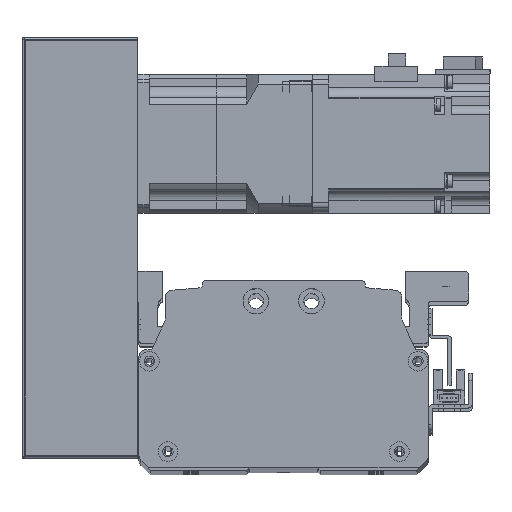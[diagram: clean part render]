
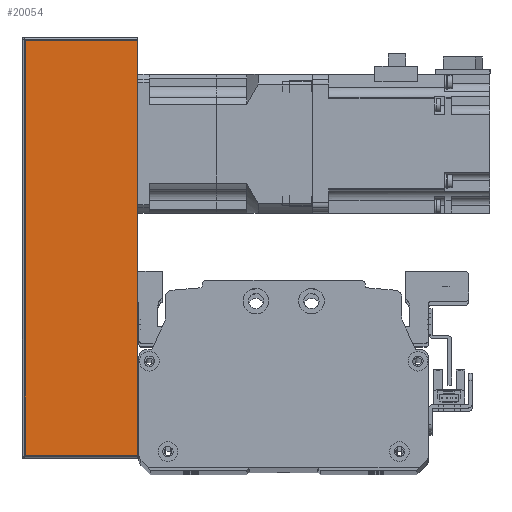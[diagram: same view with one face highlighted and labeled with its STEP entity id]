
A CAD part, top view. The second image highlights one B-rep face of the part: STEP entity #20054.
In plain terms, the highlighted planar face has unit normal (0, 0, 1) as drawn and (0, -1, 0) by its records, which use the part's own axes.
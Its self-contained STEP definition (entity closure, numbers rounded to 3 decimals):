
#604=PLANE('',#22050);
#1823=LINE('',#33120,#3447);
#1832=LINE('',#33159,#3456);
#1835=LINE('',#33169,#3459);
#1836=LINE('',#33171,#3460);
#3447=VECTOR('',#26790,10.);
#3456=VECTOR('',#26839,10.);
#3459=VECTOR('',#26856,10.);
#3460=VECTOR('',#26859,10.);
#5866=FACE_OUTER_BOUND('',#7350,.T.);
#7350=EDGE_LOOP('',(#17263,#17264,#17265,#17266));
#10261=VERTEX_POINT('',#33117);
#10262=VERTEX_POINT('',#33119);
#10271=VERTEX_POINT('',#33156);
#10272=VERTEX_POINT('',#33158);
#12725=EDGE_CURVE('',#10261,#10262,#1823,.T.);
#12745=EDGE_CURVE('',#10271,#10272,#1832,.T.);
#12751=EDGE_CURVE('',#10272,#10261,#1835,.T.);
#12752=EDGE_CURVE('',#10262,#10271,#1836,.T.);
#17263=ORIENTED_EDGE('',*,*,#12745,.F.);
#17264=ORIENTED_EDGE('',*,*,#12752,.F.);
#17265=ORIENTED_EDGE('',*,*,#12725,.F.);
#17266=ORIENTED_EDGE('',*,*,#12751,.F.);
#20054=ADVANCED_FACE('',(#5866),#604,.T.);
#22050=AXIS2_PLACEMENT_3D('',#33170,#26857,#26858);
#26790=DIRECTION('',(1.,0.,0.));
#26839=DIRECTION('',(-1.,0.,0.));
#26856=DIRECTION('',(0.,0.,1.));
#26857=DIRECTION('center_axis',(0.,-1.,0.));
#26858=DIRECTION('ref_axis',(1.,0.,0.));
#26859=DIRECTION('',(0.,0.,-1.));
#33117=CARTESIAN_POINT('',(-90.,-38.,25.));
#33119=CARTESIAN_POINT('',(90.,-38.,25.));
#33120=CARTESIAN_POINT('',(91.,-38.,25.));
#33156=CARTESIAN_POINT('',(90.,-38.,-24.));
#33158=CARTESIAN_POINT('',(-90.,-38.,-24.));
#33159=CARTESIAN_POINT('',(-45.5,-38.,-24.));
#33169=CARTESIAN_POINT('',(-90.,-38.,0.));
#33170=CARTESIAN_POINT('Origin',(-91.,-38.,0.));
#33171=CARTESIAN_POINT('',(90.,-38.,0.));
